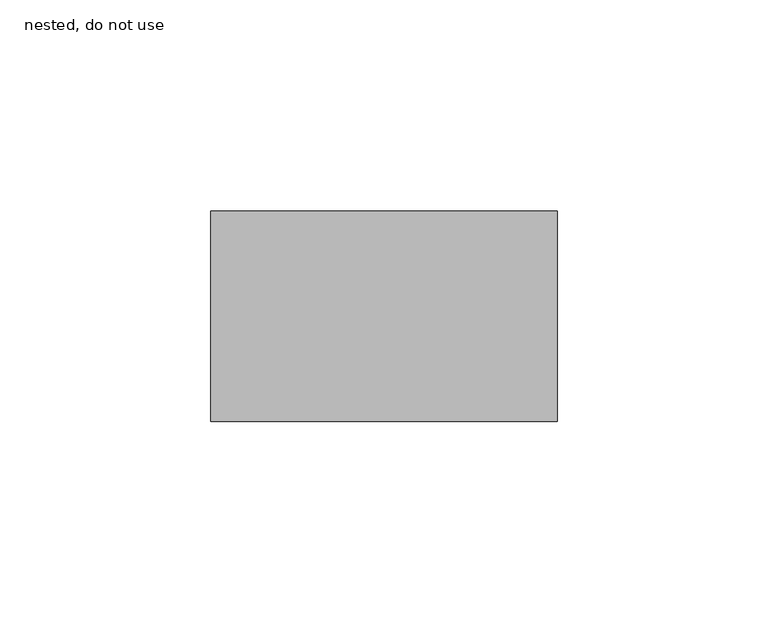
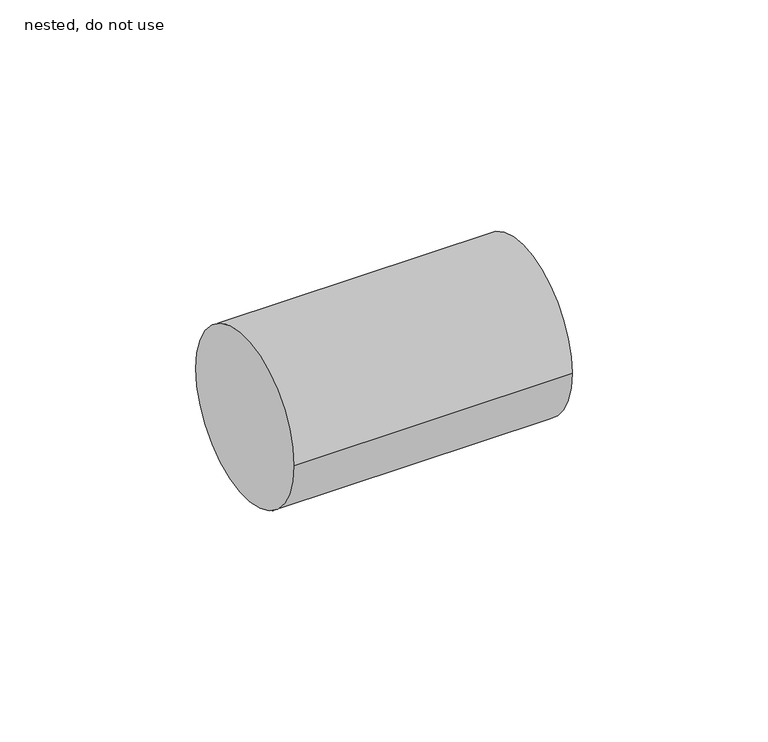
"""IFC4 building model written with IfcOpenShell, lengths in millimetres: pipe fitting geometry, NLRS_52_PIF_UN_Vacurain Flex spiebus_SH_Dyka : nested, do not use."""

from ifc_helpers import new_model, si_unit, point, frame, origin, origin_2d, place, context, project, spatial, circle_curve, trimmed, segment, composite_curve, outline, extrude, source, transform, mapped, element, save


def nested_do_not_use_87300143(model_context):
    return source(origin(), model_context, "Body", "SweptSolid", [
        extrude(outline(composite_curve([segment(trimmed(circle_curve(origin_2d(), 25.0), [point((-25.0, 0.0))], [point((25.0, 0.0))], False, "CARTESIAN"), True, "CONTINUOUS"), segment(trimmed(circle_curve(origin_2d(), 25.0), [point((25.0, 0.0))], [point((-25.0, 0.0))], False, "CARTESIAN"), True, "CONTINUOUS")], self_intersect=False)), frame((-41.0, 0.0, 0.0), z_axis=(1.0, 0.0, 0.0), x_axis=(0.0, 1.0, 0.0)), (0.0, 0.0, 1.0), 82.0),
    ])


if __name__ == "__main__":
    model = new_model("IFC4")
    model_context = context("Model", 3, world=origin())
    ifc_project = project(units=[si_unit("LENGTHUNIT", "METRE", prefix="MILLI")], contexts=[model_context])
    site = spatial("IfcSite", under=ifc_project)
    building = spatial("IfcBuilding", under=site)
    placement = place(None, origin())
    nested_do_not_use_shape = nested_do_not_use_87300143(model_context)
    element("IfcPipeFitting", 1, ObjectType="NLRS_52_PIF_UN_Vacurain Flex spiebus_SH_Dyka : nested, do not use", at=placement, inside=building, context=model_context, shape_type="MappedRepresentation", body=[
        mapped(nested_do_not_use_shape, transform((0.0, 0.0, 0.0), x_axis=(1.0, 0.0, 0.0), y_axis=(0.0, 1.0, 0.0), z_axis=(0.0, 0.0, 1.0))),
    ])
    save(model, "model.ifc")
